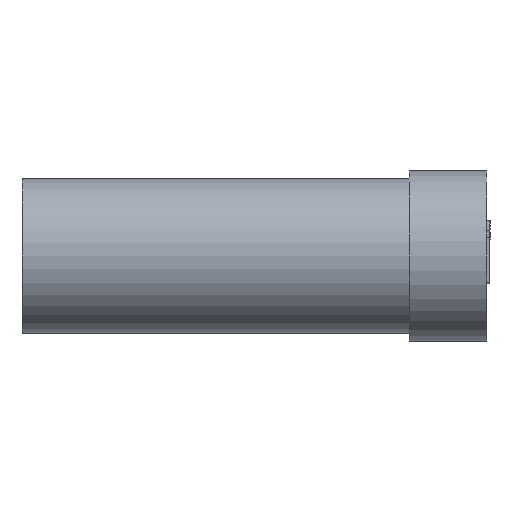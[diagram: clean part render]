
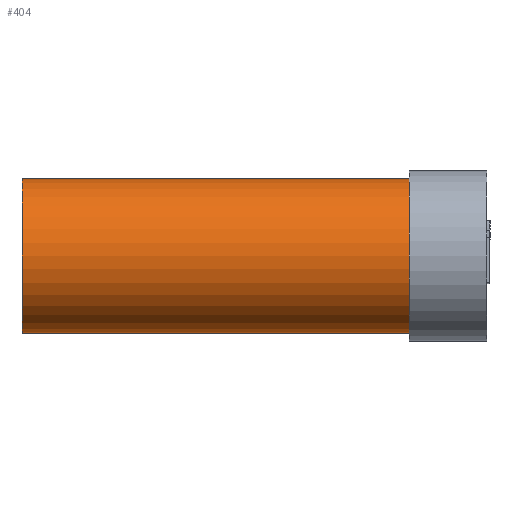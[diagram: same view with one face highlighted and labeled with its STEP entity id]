
A CAD part, left-side view. The second image highlights one B-rep face of the part: STEP entity #404.
In plain terms, the highlighted cylindrical face has radius 5 mm (diameter 10 mm), a partial arc.
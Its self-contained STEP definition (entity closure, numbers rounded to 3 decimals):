
#44 = DIRECTION ( 'NONE',  ( 0., -1., 0. ) ) ;
#94 = ORIENTED_EDGE ( 'NONE', *, *, #1135, .T. ) ;
#152 = DIRECTION ( 'NONE',  ( 0., 0., -1. ) ) ;
#174 = CIRCLE ( 'NONE', #660, 5. ) ;
#244 = ORIENTED_EDGE ( 'NONE', *, *, #446, .F. ) ;
#287 = VECTOR ( 'NONE', #697, 1000. ) ;
#300 = DIRECTION ( 'NONE',  ( 0., -1., 0. ) ) ;
#404 = ADVANCED_FACE ( 'NONE', ( #1254 ), #901, .T. ) ;
#410 = LINE ( 'NONE', #702, #287 ) ;
#418 = AXIS2_PLACEMENT_3D ( 'NONE', #1000, #781, #682 ) ;
#446 = EDGE_CURVE ( 'NONE', #1061, #741, #973, .T. ) ;
#555 = CARTESIAN_POINT ( 'NONE',  ( 0., 10., 5. ) ) ;
#558 = ORIENTED_EDGE ( 'NONE', *, *, #1050, .T. ) ;
#576 = CARTESIAN_POINT ( 'NONE',  ( 0., 15., 5. ) ) ;
#622 = CARTESIAN_POINT ( 'NONE',  ( 0., 15., 0. ) ) ;
#660 = AXIS2_PLACEMENT_3D ( 'NONE', #622, #300, #1259 ) ;
#682 = DIRECTION ( 'NONE',  ( 0., 0., -1. ) ) ;
#697 = DIRECTION ( 'NONE',  ( 0., -1., 0. ) ) ;
#702 = CARTESIAN_POINT ( 'NONE',  ( 0., 10., -5. ) ) ;
#741 = VERTEX_POINT ( 'NONE', #1261 ) ;
#758 = CARTESIAN_POINT ( 'NONE',  ( 0., 15., -5. ) ) ;
#771 = ORIENTED_EDGE ( 'NONE', *, *, #1312, .T. ) ;
#781 = DIRECTION ( 'NONE',  ( 0., 1., 0. ) ) ;
#821 = VERTEX_POINT ( 'NONE', #758 ) ;
#830 = CARTESIAN_POINT ( 'NONE',  ( 0., -10., -5. ) ) ;
#901 = CYLINDRICAL_SURFACE ( 'NONE', #905, 5. ) ;
#905 = AXIS2_PLACEMENT_3D ( 'NONE', #1214, #44, #152 ) ;
#973 = LINE ( 'NONE', #555, #1007 ) ;
#990 = CIRCLE ( 'NONE', #418, 5. ) ;
#1000 = CARTESIAN_POINT ( 'NONE',  ( 0., -10., 0. ) ) ;
#1007 = VECTOR ( 'NONE', #1301, 1000. ) ;
#1050 = EDGE_CURVE ( 'NONE', #1212, #741, #990, .T. ) ;
#1061 = VERTEX_POINT ( 'NONE', #576 ) ;
#1113 = EDGE_LOOP ( 'NONE', ( #244, #771, #94, #558 ) ) ;
#1135 = EDGE_CURVE ( 'NONE', #821, #1212, #410, .T. ) ;
#1212 = VERTEX_POINT ( 'NONE', #830 ) ;
#1214 = CARTESIAN_POINT ( 'NONE',  ( 0., 10., 0. ) ) ;
#1254 = FACE_OUTER_BOUND ( 'NONE', #1113, .T. ) ;
#1259 = DIRECTION ( 'NONE',  ( 0., 0., 1. ) ) ;
#1261 = CARTESIAN_POINT ( 'NONE',  ( 0., -10., 5. ) ) ;
#1301 = DIRECTION ( 'NONE',  ( 0., -1., 0. ) ) ;
#1312 = EDGE_CURVE ( 'NONE', #1061, #821, #174, .T. ) ;
